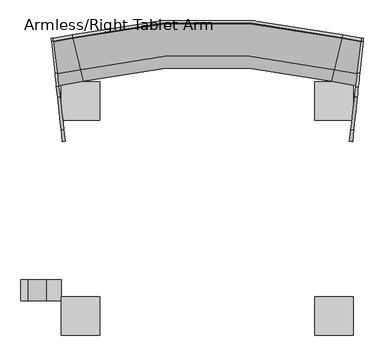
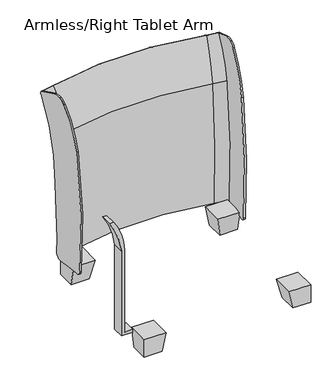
"""IFC4 building model written with IfcOpenShell, lengths in millimetres: furniture geometry, Steelcase Turnstone - Jenny - Seating - Lounge Chair : Armless/Right Tablet Arm."""

from ifc_helpers import new_model, si_unit, point, frame, frame_2d, origin, origin_with_axes, place, context, project, spatial, polyline, circle_curve, ellipse_curve, trimmed, segment, composite_curve, outline, extrude, faceted_brep, source, transform, mapped, element, save
from ifc_brep_helpers import plane_surface, revolved_surface, advanced_brep


def armless_right_tablet_arm_0e31e1d0(model_context):
    return source(origin(), model_context, "Body", "SolidModel", [
        extrude(outline(composite_curve([segment(trimmed(circle_curve(frame_2d((-317.4695755, 631.5743694)), 14.4058816), [point((-317.4695755, 645.9802509))], [point((-317.4695755, 617.1684878))], False, "CARTESIAN"), True, "CONTINUOUS"), segment(trimmed(circle_curve(frame_2d((-317.4695755, 631.5743694)), 14.4058816), [point((-317.4695755, 617.1684878))], [point((-317.4695755, 645.9802509))], False, "CARTESIAN"), True, "CONTINUOUS")], self_intersect=False)), origin_with_axes(), (0.0, 0.0, 1.0), 7.083069),
        extrude(outline(composite_curve([segment(trimmed(circle_curve(frame_2d((318.3480103, 631.2568742)), 14.4535487), [point((318.3480103, 645.7104229))], [point((318.3480103, 616.8033255))], False, "CARTESIAN"), True, "CONTINUOUS"), segment(trimmed(circle_curve(frame_2d((318.3480103, 631.2568742)), 14.4535487), [point((318.3480103, 616.8033255))], [point((318.3480103, 645.7104229))], False, "CARTESIAN"), True, "CONTINUOUS")], self_intersect=False)), origin_with_axes(), (0.0, 0.0, 1.0), 7.083069),
        faceted_brep([(279.1777267, 593.0641473, 7.083069), (279.1777267, 669.2641473, 7.083069), (355.3777267, 669.2641473, 7.083069), (355.3777267, 593.0641473, 7.083069), (261.9561035, 575.8429601, 95.4116322), (355.3777267, 575.8429601, 95.4116322), (355.3777267, 669.2641473, 95.4116322), (261.9561035, 669.2641473, 95.4116322)], [[[0, 1, 2, 3]], [[4, 5, 6, 7]], [[4, 7, 1, 0]], [[7, 6, 2, 1]], [[6, 5, 3, 2]], [[5, 4, 0, 3]]]),
        faceted_brep([(-279.1777267, 593.0641473, 7.083069), (-355.3777267, 593.0641473, 7.083069), (-355.3777267, 669.2641473, 7.083069), (-279.1777267, 669.2641473, 7.083069), (-261.9561035, 575.8429601, 95.4116322), (-261.9561035, 669.2641473, 95.4116322), (-355.3777267, 669.2641473, 95.4116322), (-355.3777267, 575.8429601, 95.4116322)], [[[0, 1, 2, 3]], [[4, 5, 6, 7]], [[4, 7, 1, 0]], [[7, 6, 2, 1]], [[6, 5, 3, 2]], [[5, 4, 0, 3]]]),
        extrude(outline(composite_curve([segment(trimmed(circle_curve(frame_2d((-317.4695755, 90.6150358)), 14.4058816), [point((-317.4695755, 76.2091543))], [point((-317.4695755, 105.0209174))], False, "CARTESIAN"), True, "CONTINUOUS"), segment(trimmed(circle_curve(frame_2d((-317.4695755, 90.6150358)), 14.4058816), [point((-317.4695755, 105.0209174))], [point((-317.4695755, 76.2091543))], False, "CARTESIAN"), True, "CONTINUOUS")], self_intersect=False)), origin_with_axes(), (0.0, 0.0, 1.0), 7.083069),
        extrude(outline(composite_curve([segment(trimmed(circle_curve(frame_2d((318.3480103, 90.932531)), 14.4535487), [point((318.3480103, 76.4789822))], [point((318.3480103, 105.3860797))], False, "CARTESIAN"), True, "CONTINUOUS"), segment(trimmed(circle_curve(frame_2d((318.3480103, 90.932531)), 14.4535487), [point((318.3480103, 105.3860797))], [point((318.3480103, 76.4789822))], False, "CARTESIAN"), True, "CONTINUOUS")], self_intersect=False)), origin_with_axes(), (0.0, 0.0, 1.0), 7.083069),
        faceted_brep([(279.1777267, 129.1252579, 7.083069), (355.3777267, 129.1252579, 7.083069), (355.3777267, 52.9252579, 7.083069), (279.1777267, 52.9252579, 7.083069), (261.9561035, 146.3464451, 85.2737648), (261.9561035, 52.9252579, 85.2737648), (355.3777267, 52.9252579, 85.2737648), (355.3777267, 146.3464451, 85.2737648)], [[[0, 1, 2, 3]], [[4, 5, 6, 7]], [[4, 7, 1, 0]], [[7, 6, 2, 1]], [[6, 5, 3, 2]], [[5, 4, 0, 3]]]),
        faceted_brep([(-279.1777267, 129.1252579, 7.083069), (-279.1777267, 52.9252579, 7.083069), (-355.3777267, 52.9252579, 7.083069), (-355.3777267, 129.1252579, 7.083069), (-261.9561035, 146.3464451, 85.2737648), (-355.3777267, 146.3464451, 85.2737648), (-355.3777267, 52.9252579, 85.2737648), (-261.9561035, 52.9252579, 85.2737648)], [[[0, 1, 2, 3]], [[4, 5, 6, 7]], [[4, 7, 1, 0]], [[7, 6, 2, 1]], [[6, 5, 3, 2]], [[5, 4, 0, 3]]]),
        extrude(outline(composite_curve([segment(polyline([(451.6044174, -404.1583068), (69.2210428, -404.1583068), (69.2210428, -355.6), (81.9210443, -355.6), (81.9210443, -391.4585006), (452.3250069, -391.4585006)]), True, "CONTINUOUS"), segment(trimmed(circle_curve(frame_2d((452.3250069, -629.4150539)), 237.9565533), [point((452.3250069, -391.4585006))], [point((592.311266, -436.9906051))], False, "CARTESIAN"), True, "CONTINUOUS"), segment(polyline([(592.311266, -436.9906051), (592.311266, -454.4030746)]), True, "CONTINUOUS"), segment(trimmed(circle_curve(frame_2d((419.0031767, -717.5978054)), 315.1303859), [point((592.311266, -454.4030746))], [point((451.6044174, -404.1583068))], True, "CARTESIAN"), True, "CONTINUOUS")], self_intersect=False)), frame((0.0, 136.9954231, 0.0), z_axis=(0.0, 1.0, 0.0), x_axis=(0.0, 0.0, 1.0)), (0.0, 0.0, 1.0), 50.8000242),
        advanced_brep(
        [(-365.0328558, 688.9118721, 614.3798536), (-374.2086501, 766.5758751, 782.0850534), (-374.4577532, 768.6842856, 781.0193185), (-375.0846857, 773.9906478, 763.3929272), (-364.7240839, 686.2984239, 412.1857232), (-363.5844919, 676.6529077, 226.5942002), (-363.549176, 676.3539931, 111.3923483), (-362.6401057, 668.6596146, 90.0869227), (-327.0674538, 775.0009474, 782.0850534), (-308.774252, 698.9664071, 614.3798536), (-327.5640748, 777.0651215, 781.0193185), (-328.8139506, 782.2601513, 763.3929272), (-308.1586729, 696.4077914, 412.1857232), (-305.8867403, 686.964647, 226.5942002), (-305.8163331, 686.6720039, 111.3923483), (-304.0039772, 679.1390607, 90.0869227), (327.0674538, 775.0009474, 782.0850534), (308.774252, 698.9664071, 614.3798536), (327.5640748, 777.0651215, 781.0193185), (328.8139506, 782.2601513, 763.3929272), (308.1586729, 696.4077914, 412.1857232), (305.8867403, 686.964647, 226.5942002), (305.8163331, 686.6720039, 111.3923483), (304.0039772, 679.1390607, 90.0869227), (365.0328558, 688.9118721, 614.3798536), (362.6401057, 668.6596146, 90.0869227), (363.549176, 676.3539931, 111.3923483), (363.5844919, 676.6529077, 226.5942002), (364.7240839, 686.2984239, 412.1857232), (375.0846857, 773.9906478, 763.3929272), (374.4577532, 768.6842856, 781.0193185), (374.2086501, 766.5758751, 782.0850534)],
        [
            (0, 1, circle_curve(frame((-406.9820142, 1043.9699138, 549.7445151), z_axis=(-0.9930928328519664, -0.11733126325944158, 0.0), x_axis=(-0.11733126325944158, 0.9930928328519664, 0.0)), 363.3230957)),
            (1, 2),
            (2, 3, circle_curve(frame((-373.7892515, 763.0260816, 769.6690835), z_axis=(-0.9930928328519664, -0.11733126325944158, 0.0), x_axis=(-0.11733126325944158, 0.9930928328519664, 0.0)), 12.7)),
            (3, 4, circle_curve(frame((-444.1840732, 1358.8484643, 428.618251), z_axis=(0.9930928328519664, 0.11733126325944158, 0.0), x_axis=(-0.11733126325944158, 0.9930928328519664, 0.0)), 677.4270991)),
            (4, 5, circle_curve(frame((-222.1914301, -520.0991972, 382.7096079), z_axis=(-0.9930928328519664, -0.11733126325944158, 0.0), x_axis=(-0.11733126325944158, 0.9930928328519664, 0.0)), 1215.145925)),
            (5, 6, circle_curve(frame((-416.8275775, 1127.3028473, 167.8072561), z_axis=(0.9930928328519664, 0.11733126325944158, 0.0), x_axis=(-0.11733126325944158, 0.9930928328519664, 0.0)), 457.5763313)),
            (6, 7, circle_curve(frame((-360.6485798, 651.8033223, 108.3209937), z_axis=(-0.9930928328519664, -0.11733126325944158, 0.0), x_axis=(-0.11733126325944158, 0.9930928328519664, 0.0)), 24.9114856)),
            (7, 0, circle_curve(frame((-582.1375659, 2526.4880272, 279.8645269), z_axis=(-0.9930928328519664, -0.11733126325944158, 0.0), x_axis=(-0.11733126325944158, 0.9930928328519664, 0.0)), 1880.3513194)),
            (8, 1, circle_curve(frame((-421.6517332, 1168.1345426, 782.0850534), z_axis=(0.0, 0.0, -1.0), x_axis=(0.1173312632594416, -0.9930928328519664, 0.0)), 404.3515915)),
            (0, 9, circle_curve(frame((-421.6517332, 1168.1345426, 614.3798536), z_axis=(0.0, 0.0, 1.0), x_axis=(0.1173312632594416, -0.9930928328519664, 0.0)), 482.5557637)),
            (9, 8, circle_curve(frame((-392.4056407, 1046.5750026, 549.7445151), z_axis=(-0.9722568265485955, -0.2339159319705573, 0.0), x_axis=(-0.2339159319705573, 0.9722568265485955, 0.0)), 363.3230957)),
            (10, 2, circle_curve(frame((-421.6517332, 1168.1345426, 781.0193185), z_axis=(0.0, 0.0, -1.0), x_axis=(0.1173312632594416, -0.9930928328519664, 0.0)), 402.2285166)),
            (8, 10),
            (11, 3, circle_curve(frame((-421.6517332, 1168.1345426, 763.3929272), z_axis=(0.0, 0.0, -1.0), x_axis=(0.1173312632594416, -0.9930928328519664, 0.0)), 396.8852475)),
            (10, 11, circle_curve(frame((-326.2313253, 771.5256318, 769.6690835), z_axis=(-0.9722568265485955, -0.23391593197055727, 0.0), x_axis=(-0.23391593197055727, 0.9722568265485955, 0.0)), 12.7)),
            (12, 4, circle_curve(frame((-421.6517332, 1168.1345426, 412.1857232), z_axis=(0.0, 0.0, -1.0), x_axis=(0.1173312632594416, -0.9930928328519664, 0.0)), 485.187389)),
            (11, 12, circle_curve(frame((-466.5730368, 1354.8471098, 428.618251), z_axis=(0.9722568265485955, 0.23391593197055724, 0.0), x_axis=(-0.23391593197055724, 0.9722568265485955, 0.0)), 677.4270991)),
            (13, 5, circle_curve(frame((-421.6517332, 1168.1345426, 226.5942002), z_axis=(0.0, 0.0, -1.0), x_axis=(0.1173312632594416, -0.9930928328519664, 0.0)), 494.8999918)),
            (12, 13, circle_curve(frame((-24.0003198, -484.6784917, 382.7096079), z_axis=(-0.9722568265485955, -0.23391593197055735, 0.0), x_axis=(-0.23391593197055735, 0.9722568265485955, 0.0)), 1215.145925)),
            (14, 6, circle_curve(frame((-421.6517332, 1168.1345426, 111.3923483), z_axis=(0.0, 0.0, -1.0), x_axis=(0.1173312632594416, -0.9930928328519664, 0.0)), 495.2009855)),
            (13, 14, circle_curve(frame((-412.0341186, 1128.159534, 167.8072561), z_axis=(0.9722568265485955, 0.23391593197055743, 0.0), x_axis=(-0.23391593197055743, 0.9722568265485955, 0.0)), 457.5763313)),
            (15, 7, circle_curve(frame((-421.6517332, 1168.1345426, 90.0869227), z_axis=(0.0, 0.0, -1.0), x_axis=(0.1173312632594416, -0.9930928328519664, 0.0)), 502.9488799)),
            (14, 15, circle_curve(frame((-300.0335978, 662.6364289, 108.3209937), z_axis=(-0.9722568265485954, -0.2339159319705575, 0.0), x_axis=(-0.2339159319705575, 0.9722568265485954, 0.0)), 24.9114856)),
            (15, 9, circle_curve(frame((-741.6022058, 2497.9885145, 279.8645269), z_axis=(-0.9722568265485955, -0.23391593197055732, 0.0), x_axis=(-0.23391593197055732, 0.9722568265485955, 0.0)), 1880.3513194)),
            (16, 8, circle_curve(frame((0.0, -584.4343079, 782.0850534), z_axis=(0.0, 0.0, 1.0), x_axis=(-0.23391593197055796, 0.9722568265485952, 0.0)), 1398.2264955)),
            (9, 17, circle_curve(frame((0.0, -584.4343079, 614.3798536), z_axis=(0.0, 0.0, -1.0), x_axis=(-0.23391593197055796, 0.9722568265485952, 0.0)), 1320.0223232)),
            (17, 16, circle_curve(frame((392.4056407, 1046.5750026, 549.7445151), z_axis=(-0.972256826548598, 0.23391593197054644, 0.0), x_axis=(0.23391593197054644, 0.972256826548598, 0.0)), 363.3230957)),
            (18, 10, circle_curve(frame((0.0, -584.4343079, 781.0193185), z_axis=(0.0, 0.0, 1.0), x_axis=(-0.23391593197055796, 0.9722568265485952, 0.0)), 1400.3495704)),
            (16, 18),
            (19, 11, circle_curve(frame((0.0, -584.4343079, 763.3929272), z_axis=(0.0, 0.0, 1.0), x_axis=(-0.23391593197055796, 0.9722568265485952, 0.0)), 1405.6928394)),
            (18, 19, circle_curve(frame((326.2313253, 771.5256318, 769.6690835), z_axis=(-0.9722568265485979, 0.233915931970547, 0.0), x_axis=(0.233915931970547, 0.9722568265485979, 0.0)), 12.7)),
            (20, 12, circle_curve(frame((0.0, -584.4343079, 412.1857232), z_axis=(0.0, 0.0, 1.0), x_axis=(-0.23391593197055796, 0.9722568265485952, 0.0)), 1317.3906979)),
            (19, 20, circle_curve(frame((466.5730368, 1354.8471098, 428.618251), z_axis=(0.9722568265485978, -0.2339159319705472, 0.0), x_axis=(0.2339159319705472, 0.9722568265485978, 0.0)), 677.4270991)),
            (21, 13, circle_curve(frame((0.0, -584.4343079, 226.5942002), z_axis=(0.0, 0.0, 1.0), x_axis=(-0.23391593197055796, 0.9722568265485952, 0.0)), 1307.6780951)),
            (20, 21, circle_curve(frame((24.0003198, -484.6784917, 382.7096079), z_axis=(-0.972256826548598, 0.2339159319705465, 0.0), x_axis=(0.2339159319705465, 0.972256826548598, 0.0)), 1215.145925)),
            (22, 14, circle_curve(frame((0.0, -584.4343079, 111.3923483), z_axis=(0.0, 0.0, 1.0), x_axis=(-0.23391593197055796, 0.9722568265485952, 0.0)), 1307.3771015)),
            (21, 22, circle_curve(frame((412.0341186, 1128.159534, 167.8072561), z_axis=(0.972256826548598, -0.2339159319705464, 0.0), x_axis=(0.2339159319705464, 0.972256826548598, 0.0)), 457.5763313)),
            (23, 15, circle_curve(frame((0.0, -584.4343079, 90.0869227), z_axis=(0.0, 0.0, 1.0), x_axis=(-0.23391593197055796, 0.9722568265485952, 0.0)), 1299.629207)),
            (22, 23, circle_curve(frame((300.0335978, 662.6364289, 108.3209937), z_axis=(-0.972256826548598, 0.2339159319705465, 0.0), x_axis=(0.2339159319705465, 0.972256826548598, 0.0)), 24.9114856)),
            (23, 17, circle_curve(frame((741.6022058, 2497.9885145, 279.8645269), z_axis=(-0.9722568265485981, 0.23391593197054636, 0.0), x_axis=(0.23391593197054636, 0.9722568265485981, 0.0)), 1880.3513194)),
            (24, 25, circle_curve(frame((582.1375659, 2526.4880272, 279.8645269), z_axis=(0.9930928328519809, -0.11733126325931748, 0.0), x_axis=(0.11733126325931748, 0.9930928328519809, 0.0)), 1880.3513194)),
            (25, 26, circle_curve(frame((360.6485798, 651.8033223, 108.3209937), z_axis=(0.9930928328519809, -0.11733126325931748, 0.0), x_axis=(0.11733126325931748, 0.9930928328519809, 0.0)), 24.9114856)),
            (26, 27, circle_curve(frame((416.8275775, 1127.3028473, 167.8072561), z_axis=(-0.9930928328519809, 0.11733126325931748, 0.0), x_axis=(0.11733126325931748, 0.9930928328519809, 0.0)), 457.5763313)),
            (27, 28, circle_curve(frame((222.1914301, -520.0991972, 382.7096079), z_axis=(0.9930928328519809, -0.11733126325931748, 0.0), x_axis=(0.11733126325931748, 0.9930928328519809, 0.0)), 1215.145925)),
            (28, 29, circle_curve(frame((444.1840732, 1358.8484643, 428.618251), z_axis=(-0.9930928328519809, 0.11733126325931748, 0.0), x_axis=(0.11733126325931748, 0.9930928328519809, 0.0)), 677.4270991)),
            (29, 30, circle_curve(frame((373.7892515, 763.0260816, 769.6690835), z_axis=(0.9930928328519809, -0.11733126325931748, 0.0), x_axis=(0.11733126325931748, 0.9930928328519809, 0.0)), 12.7)),
            (30, 31),
            (31, 24, circle_curve(frame((406.9820142, 1043.9699138, 549.7445151), z_axis=(0.9930928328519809, -0.11733126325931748, 0.0), x_axis=(0.11733126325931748, 0.9930928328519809, 0.0)), 363.3230957)),
            (31, 16, circle_curve(frame((421.6517332, 1168.1345426, 782.0850534), z_axis=(0.0, 0.0, -1.0), x_axis=(-0.2339159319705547, -0.972256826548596, 0.0)), 404.3515915)),
            (17, 24, circle_curve(frame((421.6517332, 1168.1345426, 614.3798536), z_axis=(0.0, 0.0, 1.0), x_axis=(-0.2339159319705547, -0.972256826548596, 0.0)), 482.5557637)),
            (30, 18, circle_curve(frame((421.6517332, 1168.1345426, 781.0193185), z_axis=(0.0, 0.0, -1.0), x_axis=(-0.2339159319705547, -0.972256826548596, 0.0)), 402.2285166)),
            (29, 19, circle_curve(frame((421.6517332, 1168.1345426, 763.3929272), z_axis=(0.0, 0.0, -1.0), x_axis=(-0.2339159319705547, -0.972256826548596, 0.0)), 396.8852475)),
            (28, 20, circle_curve(frame((421.6517332, 1168.1345426, 412.1857232), z_axis=(0.0, 0.0, -1.0), x_axis=(-0.2339159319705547, -0.972256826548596, 0.0)), 485.187389)),
            (27, 21, circle_curve(frame((421.6517332, 1168.1345426, 226.5942002), z_axis=(0.0, 0.0, -1.0), x_axis=(-0.2339159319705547, -0.972256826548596, 0.0)), 494.8999918)),
            (26, 22, circle_curve(frame((421.6517332, 1168.1345426, 111.3923483), z_axis=(0.0, 0.0, -1.0), x_axis=(-0.2339159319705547, -0.972256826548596, 0.0)), 495.2009855)),
            (25, 23, circle_curve(frame((421.6517332, 1168.1345426, 90.0869227), z_axis=(0.0, 0.0, -1.0), x_axis=(-0.2339159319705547, -0.972256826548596, 0.0)), 502.9488799)),
        ],
        [
            plane_surface(frame((-355.6, 609.0720985, 0.0), z_axis=(-0.9930928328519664, -0.1173312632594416, 0.0), x_axis=(0.0, 0.0, 1.0))),
            revolved_surface(trimmed(ellipse_curve(frame((-406.9820142, 1043.9699138, 549.7445151), z_axis=(-0.9930928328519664, -0.11733126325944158, 0.0), x_axis=(-0.11733126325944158, 0.9930928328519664, 0.0)), 363.3230957, 363.3230957), [point((-365.0328558, 688.9118721, 614.3798536))], [point((-374.2086501, 766.5758751, 782.0850534))], True, "CARTESIAN"), (-421.6517332, 1168.1345426, 0.0), (0.0, 0.0, 1.0)),
            revolved_surface(polyline([(-374.2086501, 766.5758751, 782.0850534), (-374.4577532, 768.6842856, 781.0193185)]), (-421.6517332, 1168.1345426, 0.0), (0.0, 0.0, 1.0)),
            revolved_surface(trimmed(ellipse_curve(frame((-373.7892515, 763.0260816, 769.6690835), z_axis=(-0.9930928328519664, -0.11733126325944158, 0.0), x_axis=(-0.11733126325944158, 0.9930928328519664, 0.0)), 12.7, 12.7), [point((-374.4577532, 768.6842856, 781.0193185))], [point((-375.0846857, 773.9906478, 763.3929272))], True, "CARTESIAN"), (-421.6517332, 1168.1345426, 0.0), (0.0, 0.0, 1.0)),
            revolved_surface(trimmed(ellipse_curve(frame((-444.1840732, 1358.8484643, 428.618251), z_axis=(0.9930928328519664, 0.11733126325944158, 0.0), x_axis=(-0.11733126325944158, 0.9930928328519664, 0.0)), 677.4270991, 677.4270991), [point((-375.0846857, 773.9906478, 763.3929272))], [point((-364.7240839, 686.2984239, 412.1857232))], True, "CARTESIAN"), (-421.6517332, 1168.1345426, 0.0), (0.0, 0.0, 1.0)),
            revolved_surface(trimmed(ellipse_curve(frame((-222.1914301, -520.0991972, 382.7096079), z_axis=(-0.9930928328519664, -0.11733126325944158, 0.0), x_axis=(-0.11733126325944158, 0.9930928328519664, 0.0)), 1215.145925, 1215.145925), [point((-364.7240839, 686.2984239, 412.1857232))], [point((-363.5844919, 676.6529077, 226.5942002))], True, "CARTESIAN"), (-421.6517332, 1168.1345426, 0.0), (0.0, 0.0, 1.0)),
            revolved_surface(trimmed(ellipse_curve(frame((-416.8275775, 1127.3028473, 167.8072561), z_axis=(0.9930928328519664, 0.11733126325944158, 0.0), x_axis=(-0.11733126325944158, 0.9930928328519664, 0.0)), 457.5763313, 457.5763313), [point((-363.5844919, 676.6529077, 226.5942002))], [point((-363.549176, 676.3539931, 111.3923483))], True, "CARTESIAN"), (-421.6517332, 1168.1345426, 0.0), (0.0, 0.0, 1.0)),
            revolved_surface(trimmed(ellipse_curve(frame((-360.6485798, 651.8033223, 108.3209937), z_axis=(-0.9930928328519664, -0.11733126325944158, 0.0), x_axis=(-0.11733126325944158, 0.9930928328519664, 0.0)), 24.9114856, 24.9114856), [point((-363.549176, 676.3539931, 111.3923483))], [point((-362.6401057, 668.6596146, 90.0869227))], True, "CARTESIAN"), (-421.6517332, 1168.1345426, 0.0), (0.0, 0.0, 1.0)),
            revolved_surface(trimmed(ellipse_curve(frame((-582.1375659, 2526.4880272, 279.8645269), z_axis=(-0.9930928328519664, -0.11733126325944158, 0.0), x_axis=(-0.11733126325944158, 0.9930928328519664, 0.0)), 1880.3513194, 1880.3513194), [point((-362.6401057, 668.6596146, 90.0869227))], [point((-365.0328558, 688.9118721, 614.3798536))], True, "CARTESIAN"), (-421.6517332, 1168.1345426, 0.0), (0.0, 0.0, 1.0)),
            revolved_surface(trimmed(ellipse_curve(frame((-392.4056407, 1046.5750026, 549.7445151), z_axis=(-0.9722568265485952, -0.23391593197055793, 0.0), x_axis=(-0.23391593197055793, 0.9722568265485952, 0.0)), 363.3230957, 363.3230957), [point((-308.774252, 698.9664071, 614.3798536))], [point((-327.0674538, 775.0009474, 782.0850534))], True, "CARTESIAN"), (0.0, -584.4343079, 0.0), (0.0, 0.0, -1.0)),
            revolved_surface(polyline([(-327.0674538, 775.0009474, 782.0850534), (-327.5640748, 777.0651215, 781.0193185)]), (0.0, -584.4343079, 0.0), (0.0, 0.0, -1.0)),
            revolved_surface(trimmed(ellipse_curve(frame((-326.2313253, 771.5256318, 769.6690835), z_axis=(-0.9722568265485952, -0.23391593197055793, 0.0), x_axis=(-0.23391593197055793, 0.9722568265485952, 0.0)), 12.7, 12.7), [point((-327.5640748, 777.0651215, 781.0193185))], [point((-328.8139506, 782.2601513, 763.3929272))], True, "CARTESIAN"), (0.0, -584.4343079, 0.0), (0.0, 0.0, -1.0)),
            revolved_surface(trimmed(ellipse_curve(frame((-466.5730368, 1354.8471098, 428.618251), z_axis=(0.9722568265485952, 0.23391593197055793, 0.0), x_axis=(-0.23391593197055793, 0.9722568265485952, 0.0)), 677.4270991, 677.4270991), [point((-328.8139506, 782.2601513, 763.3929272))], [point((-308.1586729, 696.4077914, 412.1857232))], True, "CARTESIAN"), (0.0, -584.4343079, 0.0), (0.0, 0.0, -1.0)),
            revolved_surface(trimmed(ellipse_curve(frame((-24.0003198, -484.6784917, 382.7096079), z_axis=(-0.9722568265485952, -0.23391593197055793, 0.0), x_axis=(-0.23391593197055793, 0.9722568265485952, 0.0)), 1215.145925, 1215.145925), [point((-308.1586729, 696.4077914, 412.1857232))], [point((-305.8867403, 686.964647, 226.5942002))], True, "CARTESIAN"), (0.0, -584.4343079, 0.0), (0.0, 0.0, -1.0)),
            revolved_surface(trimmed(ellipse_curve(frame((-412.0341186, 1128.159534, 167.8072561), z_axis=(0.9722568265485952, 0.23391593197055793, 0.0), x_axis=(-0.23391593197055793, 0.9722568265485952, 0.0)), 457.5763313, 457.5763313), [point((-305.8867403, 686.964647, 226.5942002))], [point((-305.8163331, 686.6720039, 111.3923483))], True, "CARTESIAN"), (0.0, -584.4343079, 0.0), (0.0, 0.0, -1.0)),
            revolved_surface(trimmed(ellipse_curve(frame((-300.0335978, 662.6364289, 108.3209937), z_axis=(-0.9722568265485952, -0.23391593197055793, 0.0), x_axis=(-0.23391593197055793, 0.9722568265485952, 0.0)), 24.9114856, 24.9114856), [point((-305.8163331, 686.6720039, 111.3923483))], [point((-304.0039772, 679.1390607, 90.0869227))], True, "CARTESIAN"), (0.0, -584.4343079, 0.0), (0.0, 0.0, -1.0)),
            revolved_surface(trimmed(ellipse_curve(frame((-741.6022058, 2497.9885145, 279.8645269), z_axis=(-0.9722568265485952, -0.23391593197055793, 0.0), x_axis=(-0.23391593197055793, 0.9722568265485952, 0.0)), 1880.3513194, 1880.3513194), [point((-304.0039772, 679.1390607, 90.0869227))], [point((-308.774252, 698.9664071, 614.3798536))], True, "CARTESIAN"), (0.0, -584.4343079, 0.0), (0.0, 0.0, -1.0)),
            plane_surface(frame((355.6, 609.0720985, 0.0), z_axis=(0.993092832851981, -0.11733126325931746, 0.0), x_axis=(0.0, 0.0, 1.0))),
            revolved_surface(trimmed(ellipse_curve(frame((392.4056407, 1046.5750026, 549.7445151), z_axis=(-0.972256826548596, 0.2339159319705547, 0.0), x_axis=(0.2339159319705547, 0.972256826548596, 0.0)), 363.3230957, 363.3230957), [point((308.774252, 698.9664071, 614.3798536))], [point((327.0674538, 775.0009474, 782.0850534))], True, "CARTESIAN"), (421.6517332, 1168.1345426, 0.0), (0.0, 0.0, 1.0)),
            revolved_surface(polyline([(327.0674538, 775.0009474, 782.0850534), (327.5640748, 777.0651215, 781.0193185)]), (421.6517332, 1168.1345426, 0.0), (0.0, 0.0, 1.0)),
            revolved_surface(trimmed(ellipse_curve(frame((326.2313253, 771.5256318, 769.6690835), z_axis=(-0.972256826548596, 0.2339159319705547, 0.0), x_axis=(0.2339159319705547, 0.972256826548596, 0.0)), 12.7, 12.7), [point((327.5640748, 777.0651215, 781.0193185))], [point((328.8139506, 782.2601513, 763.3929272))], True, "CARTESIAN"), (421.6517332, 1168.1345426, 0.0), (0.0, 0.0, 1.0)),
            revolved_surface(trimmed(ellipse_curve(frame((466.5730368, 1354.8471098, 428.618251), z_axis=(0.972256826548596, -0.2339159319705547, 0.0), x_axis=(0.2339159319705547, 0.972256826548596, 0.0)), 677.4270991, 677.4270991), [point((328.8139506, 782.2601513, 763.3929272))], [point((308.1586729, 696.4077914, 412.1857232))], True, "CARTESIAN"), (421.6517332, 1168.1345426, 0.0), (0.0, 0.0, 1.0)),
            revolved_surface(trimmed(ellipse_curve(frame((24.0003198, -484.6784917, 382.7096079), z_axis=(-0.972256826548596, 0.2339159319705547, 0.0), x_axis=(0.2339159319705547, 0.972256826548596, 0.0)), 1215.145925, 1215.145925), [point((308.1586729, 696.4077914, 412.1857232))], [point((305.8867403, 686.964647, 226.5942002))], True, "CARTESIAN"), (421.6517332, 1168.1345426, 0.0), (0.0, 0.0, 1.0)),
            revolved_surface(trimmed(ellipse_curve(frame((412.0341186, 1128.159534, 167.8072561), z_axis=(0.972256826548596, -0.2339159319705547, 0.0), x_axis=(0.2339159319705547, 0.972256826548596, 0.0)), 457.5763313, 457.5763313), [point((305.8867403, 686.964647, 226.5942002))], [point((305.8163331, 686.6720039, 111.3923483))], True, "CARTESIAN"), (421.6517332, 1168.1345426, 0.0), (0.0, 0.0, 1.0)),
            revolved_surface(trimmed(ellipse_curve(frame((300.0335978, 662.6364289, 108.3209937), z_axis=(-0.972256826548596, 0.2339159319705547, 0.0), x_axis=(0.2339159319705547, 0.972256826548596, 0.0)), 24.9114856, 24.9114856), [point((305.8163331, 686.6720039, 111.3923483))], [point((304.0039772, 679.1390607, 90.0869227))], True, "CARTESIAN"), (421.6517332, 1168.1345426, 0.0), (0.0, 0.0, 1.0)),
            revolved_surface(trimmed(ellipse_curve(frame((741.6022058, 2497.9885145, 279.8645269), z_axis=(-0.972256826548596, 0.2339159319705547, 0.0), x_axis=(0.2339159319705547, 0.972256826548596, 0.0)), 1880.3513194, 1880.3513194), [point((304.0039772, 679.1390607, 90.0869227))], [point((308.774252, 698.9664071, 614.3798536))], True, "CARTESIAN"), (421.6517332, 1168.1345426, 0.0), (0.0, 0.0, 1.0)),
        ],
        [
            (0, [[1, 2, 3, 4, 5, 6, 7, 8]]),
            (1, [[9, -1, 10, 11]]),
            (2, [[12, -2, -9, 13]]),
            (3, [[14, -3, -12, 15]]),
            (4, [[16, -4, -14, 17]]),
            (5, [[18, -5, -16, 19]]),
            (6, [[20, -6, -18, 21]]),
            (7, [[22, -7, -20, 23]]),
            (8, [[-10, -8, -22, 24]]),
            (9, [[25, -11, 26, 27]]),
            (10, [[28, -13, -25, 29]]),
            (11, [[30, -15, -28, 31]]),
            (12, [[32, -17, -30, 33]]),
            (13, [[34, -19, -32, 35]]),
            (14, [[36, -21, -34, 37]]),
            (15, [[38, -23, -36, 39]]),
            (16, [[-26, -24, -38, 40]]),
            (17, [[41, 42, 43, 44, 45, 46, 47, 48]]),
            (18, [[49, -27, 50, -48]]),
            (19, [[51, -29, -49, -47]]),
            (20, [[52, -31, -51, -46]]),
            (21, [[53, -33, -52, -45]]),
            (22, [[54, -35, -53, -44]]),
            (23, [[55, -37, -54, -43]]),
            (24, [[56, -39, -55, -42]]),
            (25, [[-50, -40, -56, -41]]),
        ],
    ),
        advanced_brep(
        [(371.0231422, 690.4168678, 813.9027777), (367.5078894, 657.2478941, 814.4538477), (364.8381433, 632.056893, 797.7221008), (356.4068462, 552.5014564, 627.8736036), (354.3284196, 532.8899867, 97.0710008), (356.3949504, 552.3892108, 81.9987921), (366.5367036, 648.0840483, 83.5957513), (369.4625291, 675.6913448, 111.3923483), (369.4942508, 675.9906622, 226.5942002), (370.5178614, 685.6491753, 412.1857232), (379.8240192, 773.4595598, 763.3929272), (379.2608923, 768.1460475, 781.0193185), (365.286616, 691.0597009, 813.9027777), (374.4577532, 768.6842856, 781.0193185), (375.0846857, 773.9906478, 763.3929272), (364.7240839, 686.2984239, 412.1857232), (363.5844919, 676.6529077, 226.5942002), (363.549176, 676.3539931, 111.3923483), (360.2918368, 648.7838459, 83.5957513), (349.0009614, 553.2177786, 81.9987921), (346.7002803, 533.7447933, 97.0710008), (349.0142051, 553.3298731, 627.8736036), (358.4008193, 632.7782572, 797.7221008), (361.3730638, 657.9353605, 814.4538477)],
        [
            (0, 1, circle_curve(frame((369.1763053, 672.9906155, 762.9432742), z_axis=(0.9944309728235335, -0.10538994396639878, 0.0), x_axis=(-0.10538994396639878, -0.9944309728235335, 0.0)), 53.8883667)),
            (1, 2, circle_curve(frame((369.1763053, 672.9906155, 762.9432742), z_axis=(0.9944309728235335, -0.10538994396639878, 0.0), x_axis=(-0.10538994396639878, -0.9944309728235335, 0.0)), 53.8883667)),
            (2, 3, circle_curve(frame((394.086654, 908.03792, 563.2382651), z_axis=(0.9944309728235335, -0.10538994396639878, 0.0), x_axis=(-0.10538994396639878, -0.9944309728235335, 0.0)), 363.3230957)),
            (3, 4, circle_curve(frame((551.415854, 2392.5536479, 293.3582769), z_axis=(0.9944309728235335, -0.10538994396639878, 0.0), x_axis=(-0.10538994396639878, -0.9944309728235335, 0.0)), 1880.3513194)),
            (4, 5, circle_curve(frame((356.1164347, 549.7612128, 98.8517567), z_axis=(0.9944309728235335, -0.10538994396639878, 0.0), x_axis=(-0.10538994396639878, -0.9944309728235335, 0.0)), 17.0589085)),
            (5, 6, circle_curve(frame((362.0675508, 605.9143321, -261.2499371), z_axis=(-0.9944309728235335, 0.10538994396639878, 0.0), x_axis=(-0.10538994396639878, -0.9944309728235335, 0.0)), 347.443243)),
            (6, 7, circle_curve(frame((366.8571394, 651.1075933, 108.3209937), z_axis=(0.9944309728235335, -0.10538994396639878, 0.0), x_axis=(-0.10538994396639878, -0.9944309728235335, 0.0)), 24.9114856)),
            (7, 8, circle_curve(frame((417.3185531, 1127.2478287, 167.8072561), z_axis=(-0.9944309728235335, 0.10538994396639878, 0.0), x_axis=(-0.10538994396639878, -0.9944309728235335, 0.0)), 457.5763313)),
            (8, 9, circle_curve(frame((242.4913834, -522.3740028, 382.7096079), z_axis=(0.9944309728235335, -0.10538994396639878, 0.0), x_axis=(-0.10538994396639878, -0.9944309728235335, 0.0)), 1215.145925)),
            (9, 10, circle_curve(frame((441.8908577, 1359.1054412, 428.618251), z_axis=(-0.9944309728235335, 0.10538994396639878, 0.0), x_axis=(-0.10538994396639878, -0.9944309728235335, 0.0)), 677.4270991)),
            (10, 11, circle_curve(frame((378.660427, 762.4802194, 769.6690835), z_axis=(0.9944309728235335, -0.10538994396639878, 0.0), x_axis=(-0.10538994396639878, -0.9944309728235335, 0.0)), 12.7)),
            (11, 0, circle_curve(frame((349.3215569, 485.6465852, 215.0940543), z_axis=(0.9944309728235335, -0.10538994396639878, 0.0), x_axis=(-0.10538994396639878, -0.9944309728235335, 0.0)), 633.2248531)),
            (12, 13, circle_curve(frame((341.1261096, 486.5649641, 215.0940543), z_axis=(-0.9930928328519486, 0.11733126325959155, 0.0), x_axis=(-0.11733126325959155, -0.9930928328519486, 0.0)), 633.2248531)),
            (13, 14, circle_curve(frame((373.7892515, 763.0260816, 769.6690835), z_axis=(-0.9930928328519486, 0.11733126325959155, 0.0), x_axis=(-0.11733126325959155, -0.9930928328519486, 0.0)), 12.7)),
            (14, 15, circle_curve(frame((444.1840732, 1358.8484643, 428.618251), z_axis=(0.9930928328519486, -0.11733126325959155, 0.0), x_axis=(-0.11733126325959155, -0.9930928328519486, 0.0)), 677.4270991)),
            (15, 16, circle_curve(frame((222.1914301, -520.0991972, 382.7096079), z_axis=(-0.9930928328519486, 0.11733126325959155, 0.0), x_axis=(-0.11733126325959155, -0.9930928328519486, 0.0)), 1215.145925)),
            (16, 17, circle_curve(frame((416.8275775, 1127.3028473, 167.8072561), z_axis=(0.9930928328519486, -0.11733126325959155, 0.0), x_axis=(-0.11733126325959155, -0.9930928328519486, 0.0)), 457.5763313)),
            (17, 18, circle_curve(frame((360.6485798, 651.8033223, 108.3209937), z_axis=(-0.9930928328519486, 0.11733126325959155, 0.0), x_axis=(-0.11733126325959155, -0.9930928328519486, 0.0)), 24.9114856)),
            (18, 19, circle_curve(frame((355.3163018, 606.6708747, -261.2499371), z_axis=(0.9930928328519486, -0.11733126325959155, 0.0), x_axis=(-0.11733126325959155, -0.9930928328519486, 0.0)), 347.443243)),
            (19, 20, circle_curve(frame((348.6908883, 550.5933169, 98.8517567), z_axis=(-0.9930928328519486, 0.11733126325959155, 0.0), x_axis=(-0.11733126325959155, -0.9930928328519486, 0.0)), 17.0589085)),
            (20, 21, circle_curve(frame((566.1189152, 2390.9060281, 293.3582769), z_axis=(-0.9930928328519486, 0.11733126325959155, 0.0), x_axis=(-0.11733126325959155, -0.9930928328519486, 0.0)), 1880.3513194)),
            (21, 22, circle_curve(frame((390.9633635, 908.3879148, 563.2382651), z_axis=(-0.9930928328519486, 0.11733126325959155, 0.0), x_axis=(-0.11733126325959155, -0.9930928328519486, 0.0)), 363.3230957)),
            (22, 23, circle_curve(frame((363.2305214, 673.6568979, 762.9432742), z_axis=(-0.9930928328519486, 0.11733126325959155, 0.0), x_axis=(-0.11733126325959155, -0.9930928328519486, 0.0)), 53.8883667)),
            (23, 12, circle_curve(frame((363.2305214, 673.6568979, 762.9432742), z_axis=(-0.9930928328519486, 0.11733126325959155, 0.0), x_axis=(-0.11733126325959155, -0.9930928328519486, 0.0)), 53.8883667)),
            (23, 1, circle_curve(frame((421.6517332, 1168.1345426, 814.4538477), z_axis=(0.0, 0.0, 1.0), x_axis=(-0.10538994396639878, -0.9944309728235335, 0.0)), 513.7477235)),
            (0, 12, circle_curve(frame((421.6517332, 1168.1345426, 813.9027777), z_axis=(0.0, 0.0, -1.0), x_axis=(-0.10538994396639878, -0.9944309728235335, 0.0)), 480.3929964)),
            (22, 2, circle_curve(frame((421.6517332, 1168.1345426, 797.7221008), z_axis=(0.0, 0.0, 1.0), x_axis=(-0.10538994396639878, -0.9944309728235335, 0.0)), 539.0797997)),
            (21, 3, circle_curve(frame((421.6517332, 1168.1345426, 627.8736036), z_axis=(0.0, 0.0, 1.0), x_axis=(-0.10538994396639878, -0.9944309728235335, 0.0)), 619.0807637)),
            (20, 4, circle_curve(frame((421.6517332, 1168.1345426, 97.0710008), z_axis=(0.0, 0.0, 1.0), x_axis=(-0.10538994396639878, -0.9944309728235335, 0.0)), 638.8020619)),
            (19, 5, circle_curve(frame((421.6517332, 1168.1345426, 81.9987921), z_axis=(0.0, 0.0, 1.0), x_axis=(-0.10538994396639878, -0.9944309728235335, 0.0)), 619.193638)),
            (18, 6, circle_curve(frame((421.6517332, 1168.1345426, 83.5957513), z_axis=(0.0, 0.0, 1.0), x_axis=(-0.10538994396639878, -0.9944309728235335, 0.0)), 522.9628888)),
            (17, 7, circle_curve(frame((421.6517332, 1168.1345426, 111.3923483), z_axis=(0.0, 0.0, 1.0), x_axis=(-0.10538994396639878, -0.9944309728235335, 0.0)), 495.2009855)),
            (16, 8, circle_curve(frame((421.6517332, 1168.1345426, 226.5942002), z_axis=(0.0, 0.0, 1.0), x_axis=(-0.10538994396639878, -0.9944309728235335, 0.0)), 494.8999918)),
            (15, 9, circle_curve(frame((421.6517332, 1168.1345426, 412.1857232), z_axis=(0.0, 0.0, 1.0), x_axis=(-0.10538994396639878, -0.9944309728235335, 0.0)), 485.187389)),
            (14, 10, circle_curve(frame((421.6517332, 1168.1345426, 763.3929272), z_axis=(0.0, 0.0, 1.0), x_axis=(-0.10538994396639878, -0.9944309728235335, 0.0)), 396.8852475)),
            (13, 11, circle_curve(frame((421.6517332, 1168.1345426, 781.0193185), z_axis=(0.0, 0.0, 1.0), x_axis=(-0.10538994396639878, -0.9944309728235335, 0.0)), 402.2285166)),
        ],
        [
            plane_surface(frame((362.3223757, 608.3187915, 0.0), z_axis=(0.9944309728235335, -0.10538994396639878, 0.0), x_axis=(0.0, 0.0, 1.0))),
            plane_surface(frame((355.6, 609.0720985, 0.0), z_axis=(-0.9930928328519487, 0.11733126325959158, 0.0), x_axis=(0.0, 0.0, 1.0))),
            revolved_surface(trimmed(ellipse_curve(frame((369.1763053, 672.9906155, 762.9432742), z_axis=(0.9944309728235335, -0.10538994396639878, 0.0), x_axis=(-0.10538994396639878, -0.9944309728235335, 0.0)), 53.8883667, 53.8883667), [point((371.0231422, 690.4168678, 813.9027777))], [point((367.5078894, 657.2478941, 814.4538477))], True, "CARTESIAN"), (421.6517332, 1168.1345426, 0.0), (0.0, 0.0, -1.0)),
            revolved_surface(trimmed(ellipse_curve(frame((369.1763053, 672.9906155, 762.9432742), z_axis=(0.9944309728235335, -0.10538994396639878, 0.0), x_axis=(-0.10538994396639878, -0.9944309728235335, 0.0)), 53.8883667, 53.8883667), [point((367.5078894, 657.2478941, 814.4538477))], [point((364.8381433, 632.056893, 797.7221008))], True, "CARTESIAN"), (421.6517332, 1168.1345426, 0.0), (0.0, 0.0, -1.0)),
            revolved_surface(trimmed(ellipse_curve(frame((394.086654, 908.03792, 563.2382651), z_axis=(0.9944309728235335, -0.10538994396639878, 0.0), x_axis=(-0.10538994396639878, -0.9944309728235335, 0.0)), 363.3230957, 363.3230957), [point((364.8381433, 632.056893, 797.7221008))], [point((356.4068462, 552.5014564, 627.8736036))], True, "CARTESIAN"), (421.6517332, 1168.1345426, 0.0), (0.0, 0.0, -1.0)),
            revolved_surface(trimmed(ellipse_curve(frame((551.415854, 2392.5536479, 293.3582769), z_axis=(0.9944309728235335, -0.10538994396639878, 0.0), x_axis=(-0.10538994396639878, -0.9944309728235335, 0.0)), 1880.3513194, 1880.3513194), [point((356.4068462, 552.5014564, 627.8736036))], [point((354.3284196, 532.8899867, 97.0710008))], True, "CARTESIAN"), (421.6517332, 1168.1345426, 0.0), (0.0, 0.0, -1.0)),
            revolved_surface(trimmed(ellipse_curve(frame((356.1164347, 549.7612128, 98.8517567), z_axis=(0.9944309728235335, -0.10538994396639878, 0.0), x_axis=(-0.10538994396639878, -0.9944309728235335, 0.0)), 17.0589085, 17.0589085), [point((354.3284196, 532.8899867, 97.0710008))], [point((356.3949504, 552.3892108, 81.9987921))], True, "CARTESIAN"), (421.6517332, 1168.1345426, 0.0), (0.0, 0.0, -1.0)),
            revolved_surface(trimmed(ellipse_curve(frame((362.0675508, 605.9143321, -261.2499371), z_axis=(-0.9944309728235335, 0.10538994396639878, 0.0), x_axis=(-0.10538994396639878, -0.9944309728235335, 0.0)), 347.443243, 347.443243), [point((356.3949504, 552.3892108, 81.9987921))], [point((366.5367036, 648.0840483, 83.5957513))], True, "CARTESIAN"), (421.6517332, 1168.1345426, 0.0), (0.0, 0.0, -1.0)),
            revolved_surface(trimmed(ellipse_curve(frame((366.8571394, 651.1075933, 108.3209937), z_axis=(0.9944309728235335, -0.10538994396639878, 0.0), x_axis=(-0.10538994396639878, -0.9944309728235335, 0.0)), 24.9114856, 24.9114856), [point((366.5367036, 648.0840483, 83.5957513))], [point((369.4625291, 675.6913448, 111.3923483))], True, "CARTESIAN"), (421.6517332, 1168.1345426, 0.0), (0.0, 0.0, -1.0)),
            revolved_surface(trimmed(ellipse_curve(frame((417.3185531, 1127.2478287, 167.8072561), z_axis=(-0.9944309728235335, 0.10538994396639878, 0.0), x_axis=(-0.10538994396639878, -0.9944309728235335, 0.0)), 457.5763313, 457.5763313), [point((369.4625291, 675.6913448, 111.3923483))], [point((369.4942508, 675.9906622, 226.5942002))], True, "CARTESIAN"), (421.6517332, 1168.1345426, 0.0), (0.0, 0.0, -1.0)),
            revolved_surface(trimmed(ellipse_curve(frame((242.4913834, -522.3740028, 382.7096079), z_axis=(0.9944309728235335, -0.10538994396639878, 0.0), x_axis=(-0.10538994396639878, -0.9944309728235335, 0.0)), 1215.145925, 1215.145925), [point((369.4942508, 675.9906622, 226.5942002))], [point((370.5178614, 685.6491753, 412.1857232))], True, "CARTESIAN"), (421.6517332, 1168.1345426, 0.0), (0.0, 0.0, -1.0)),
            revolved_surface(trimmed(ellipse_curve(frame((441.8908577, 1359.1054412, 428.618251), z_axis=(-0.9944309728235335, 0.10538994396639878, 0.0), x_axis=(-0.10538994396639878, -0.9944309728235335, 0.0)), 677.4270991, 677.4270991), [point((370.5178614, 685.6491753, 412.1857232))], [point((379.8240192, 773.4595598, 763.3929272))], True, "CARTESIAN"), (421.6517332, 1168.1345426, 0.0), (0.0, 0.0, -1.0)),
            revolved_surface(trimmed(ellipse_curve(frame((378.660427, 762.4802194, 769.6690835), z_axis=(0.9944309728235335, -0.10538994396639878, 0.0), x_axis=(-0.10538994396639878, -0.9944309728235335, 0.0)), 12.7, 12.7), [point((379.8240192, 773.4595598, 763.3929272))], [point((379.2608923, 768.1460475, 781.0193185))], True, "CARTESIAN"), (421.6517332, 1168.1345426, 0.0), (0.0, 0.0, -1.0)),
            revolved_surface(trimmed(ellipse_curve(frame((349.3215569, 485.6465852, 215.0940543), z_axis=(0.9944309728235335, -0.10538994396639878, 0.0), x_axis=(-0.10538994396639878, -0.9944309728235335, 0.0)), 633.2248531, 633.2248531), [point((379.2608923, 768.1460475, 781.0193185))], [point((371.0231422, 690.4168678, 813.9027777))], True, "CARTESIAN"), (421.6517332, 1168.1345426, 0.0), (0.0, 0.0, -1.0)),
        ],
        [
            (0, [[1, 2, 3, 4, 5, 6, 7, 8, 9, 10, 11, 12]]),
            (1, [[13, 14, 15, 16, 17, 18, 19, 20, 21, 22, 23, 24]]),
            (2, [[25, -1, 26, -24]]),
            (3, [[27, -2, -25, -23]]),
            (4, [[28, -3, -27, -22]]),
            (5, [[29, -4, -28, -21]]),
            (6, [[30, -5, -29, -20]]),
            (7, [[31, -6, -30, -19]]),
            (8, [[32, -7, -31, -18]]),
            (9, [[33, -8, -32, -17]]),
            (10, [[34, -9, -33, -16]]),
            (11, [[35, -10, -34, -15]]),
            (12, [[36, -11, -35, -14]]),
            (13, [[-26, -12, -36, -13]]),
        ],
    ),
        advanced_brep(
        [(-370.5625529, 690.4659057, 813.9027777), (-378.8752452, 768.1871065, 781.0193185), (-379.4434951, 773.5000733, 763.3929272), (-370.0526753, 685.6987026, 412.1857232), (-369.0197525, 676.041181, 226.5942002), (-368.9877422, 675.7418943, 111.3923483), (-366.0352993, 648.1374317, 83.5957513), (-355.8012823, 552.4524173, 81.9987921), (-353.7159515, 532.9551948, 97.0710008), (-355.8132863, 552.5646514, 627.8736036), (-364.3212864, 632.1119215, 797.7221008), (-367.0153203, 657.3003368, 814.4538477), (-365.286616, 691.0597009, 813.9027777), (-361.3730638, 657.9353605, 814.4538477), (-358.4008193, 632.7782572, 797.7221008), (-349.0142051, 553.3298731, 627.8736036), (-346.7002803, 533.7447933, 97.0710008), (-349.0009614, 553.2177786, 81.9987921), (-360.2918368, 648.7838459, 83.5957513), (-363.549176, 676.3539931, 111.3923483), (-363.5844919, 676.6529077, 226.5942002), (-364.7240839, 686.2984239, 412.1857232), (-375.0846857, 773.9906478, 763.3929272), (-374.4577532, 768.6842856, 781.0193185)],
        [
            (0, 1, circle_curve(frame((-348.6635392, 485.7166429, 215.0940543), z_axis=(-0.9943288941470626, -0.10634872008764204, 0.0), x_axis=(-0.10634872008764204, 0.9943288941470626, 0.0)), 633.2248531)),
            (1, 2, circle_curve(frame((-378.2693172, 762.52186, 769.6690835), z_axis=(-0.9943288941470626, -0.10634872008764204, 0.0), x_axis=(-0.10634872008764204, 0.9943288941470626, 0.0)), 12.7)),
            (2, 3, circle_curve(frame((-442.0749814, 1359.0858379, 428.618251), z_axis=(0.9943288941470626, 0.10634872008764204, 0.0), x_axis=(-0.10634872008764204, 0.9943288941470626, 0.0)), 677.4270991)),
            (3, 4, circle_curve(frame((-240.8614873, -522.2004715, 382.7096079), z_axis=(-0.9943288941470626, -0.10634872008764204, 0.0), x_axis=(-0.10634872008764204, 0.9943288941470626, 0.0)), 1215.145925)),
            (4, 5, circle_curve(frame((-417.2791323, 1127.2520258, 167.8072561), z_axis=(0.9943288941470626, 0.10634872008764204, 0.0), x_axis=(-0.10634872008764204, 0.9943288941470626, 0.0)), 457.5763313)),
            (5, 6, circle_curve(frame((-366.3586502, 651.1606663, 108.3209937), z_axis=(-0.9943288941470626, -0.10634872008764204, 0.0), x_axis=(-0.10634872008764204, 0.9943288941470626, 0.0)), 24.9114856)),
            (6, 7, circle_curve(frame((-361.5254887, 605.9720442, -261.2499371), z_axis=(0.9943288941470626, 0.10634872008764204, 0.0), x_axis=(-0.10634872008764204, 0.9943288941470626, 0.0)), 347.443243)),
            (7, 8, circle_curve(frame((-355.5202329, 549.824689, 98.8517567), z_axis=(-0.9943288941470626, -0.10634872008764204, 0.0), x_axis=(-0.10634872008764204, 0.9943288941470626, 0.0)), 17.0589085)),
            (8, 9, circle_curve(frame((-552.5963721, 2392.4279609, 293.3582769), z_axis=(-0.9943288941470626, -0.10634872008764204, 0.0), x_axis=(-0.10634872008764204, 0.9943288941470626, 0.0)), 1880.3513194)),
            (9, 10, circle_curve(frame((-393.835883, 908.064619, 563.2382651), z_axis=(-0.9943288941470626, -0.10634872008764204, 0.0), x_axis=(-0.10634872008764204, 0.9943288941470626, 0.0)), 363.3230957)),
            (10, 11, circle_curve(frame((-368.6989146, 673.0414422, 762.9432742), z_axis=(-0.9943288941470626, -0.10634872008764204, 0.0), x_axis=(-0.10634872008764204, 0.9943288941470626, 0.0)), 53.8883667)),
            (11, 0, circle_curve(frame((-368.6989146, 673.0414422, 762.9432742), z_axis=(-0.9943288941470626, -0.10634872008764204, 0.0), x_axis=(-0.10634872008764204, 0.9943288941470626, 0.0)), 53.8883667)),
            (12, 13, circle_curve(frame((-363.2305214, 673.6568979, 762.9432742), z_axis=(0.9930928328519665, 0.11733126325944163, 0.0), x_axis=(-0.11733126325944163, 0.9930928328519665, 0.0)), 53.8883667)),
            (13, 14, circle_curve(frame((-363.2305214, 673.6568979, 762.9432742), z_axis=(0.9930928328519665, 0.11733126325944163, 0.0), x_axis=(-0.11733126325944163, 0.9930928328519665, 0.0)), 53.8883667)),
            (14, 15, circle_curve(frame((-390.9633635, 908.3879148, 563.2382651), z_axis=(0.9930928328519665, 0.11733126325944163, 0.0), x_axis=(-0.11733126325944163, 0.9930928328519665, 0.0)), 363.3230957)),
            (15, 16, circle_curve(frame((-566.1189152, 2390.9060281, 293.3582769), z_axis=(0.9930928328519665, 0.11733126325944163, 0.0), x_axis=(-0.11733126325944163, 0.9930928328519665, 0.0)), 1880.3513194)),
            (16, 17, circle_curve(frame((-348.6908883, 550.5933169, 98.8517567), z_axis=(0.9930928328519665, 0.11733126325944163, 0.0), x_axis=(-0.11733126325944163, 0.9930928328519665, 0.0)), 17.0589085)),
            (17, 18, circle_curve(frame((-355.3163018, 606.6708747, -261.2499371), z_axis=(-0.9930928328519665, -0.11733126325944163, 0.0), x_axis=(-0.11733126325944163, 0.9930928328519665, 0.0)), 347.443243)),
            (18, 19, circle_curve(frame((-360.6485798, 651.8033223, 108.3209937), z_axis=(0.9930928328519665, 0.11733126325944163, 0.0), x_axis=(-0.11733126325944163, 0.9930928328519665, 0.0)), 24.9114856)),
            (19, 20, circle_curve(frame((-416.8275775, 1127.3028473, 167.8072561), z_axis=(-0.9930928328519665, -0.11733126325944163, 0.0), x_axis=(-0.11733126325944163, 0.9930928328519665, 0.0)), 457.5763313)),
            (20, 21, circle_curve(frame((-222.1914301, -520.0991972, 382.7096079), z_axis=(0.9930928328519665, 0.11733126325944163, 0.0), x_axis=(-0.11733126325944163, 0.9930928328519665, 0.0)), 1215.145925)),
            (21, 22, circle_curve(frame((-444.1840732, 1358.8484643, 428.618251), z_axis=(-0.9930928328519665, -0.11733126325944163, 0.0), x_axis=(-0.11733126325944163, 0.9930928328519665, 0.0)), 677.4270991)),
            (22, 23, circle_curve(frame((-373.7892515, 763.0260816, 769.6690835), z_axis=(0.9930928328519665, 0.11733126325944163, 0.0), x_axis=(-0.11733126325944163, 0.9930928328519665, 0.0)), 12.7)),
            (23, 12, circle_curve(frame((-341.1261096, 486.5649641, 215.0940543), z_axis=(0.9930928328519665, 0.11733126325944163, 0.0), x_axis=(-0.11733126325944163, 0.9930928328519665, 0.0)), 633.2248531)),
            (23, 1, circle_curve(frame((-421.6517332, 1168.1345426, 781.0193185), z_axis=(0.0, 0.0, -1.0), x_axis=(0.10634872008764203, -0.9943288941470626, 0.0)), 402.2285166)),
            (0, 12, circle_curve(frame((-421.6517332, 1168.1345426, 813.9027777), z_axis=(0.0, 0.0, 1.0), x_axis=(0.10634872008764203, -0.9943288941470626, 0.0)), 480.3929964)),
            (22, 2, circle_curve(frame((-421.6517332, 1168.1345426, 763.3929272), z_axis=(0.0, 0.0, -1.0), x_axis=(0.10634872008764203, -0.9943288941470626, 0.0)), 396.8852475)),
            (21, 3, circle_curve(frame((-421.6517332, 1168.1345426, 412.1857232), z_axis=(0.0, 0.0, -1.0), x_axis=(0.10634872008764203, -0.9943288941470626, 0.0)), 485.187389)),
            (20, 4, circle_curve(frame((-421.6517332, 1168.1345426, 226.5942002), z_axis=(0.0, 0.0, -1.0), x_axis=(0.10634872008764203, -0.9943288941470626, 0.0)), 494.8999918)),
            (19, 5, circle_curve(frame((-421.6517332, 1168.1345426, 111.3923483), z_axis=(0.0, 0.0, -1.0), x_axis=(0.10634872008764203, -0.9943288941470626, 0.0)), 495.2009855)),
            (18, 6, circle_curve(frame((-421.6517332, 1168.1345426, 83.5957513), z_axis=(0.0, 0.0, -1.0), x_axis=(0.10634872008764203, -0.9943288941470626, 0.0)), 522.9628888)),
            (17, 7, circle_curve(frame((-421.6517332, 1168.1345426, 81.9987921), z_axis=(0.0, 0.0, -1.0), x_axis=(0.10634872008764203, -0.9943288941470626, 0.0)), 619.193638)),
            (16, 8, circle_curve(frame((-421.6517332, 1168.1345426, 97.0710008), z_axis=(0.0, 0.0, -1.0), x_axis=(0.10634872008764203, -0.9943288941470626, 0.0)), 638.8020619)),
            (15, 9, circle_curve(frame((-421.6517332, 1168.1345426, 627.8736036), z_axis=(0.0, 0.0, -1.0), x_axis=(0.10634872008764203, -0.9943288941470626, 0.0)), 619.0807637)),
            (14, 10, circle_curve(frame((-421.6517332, 1168.1345426, 797.7221008), z_axis=(0.0, 0.0, -1.0), x_axis=(0.10634872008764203, -0.9943288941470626, 0.0)), 539.0797997)),
            (13, 11, circle_curve(frame((-421.6517332, 1168.1345426, 814.4538477), z_axis=(0.0, 0.0, -1.0), x_axis=(0.10634872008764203, -0.9943288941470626, 0.0)), 513.7477235)),
        ],
        [
            plane_surface(frame((-361.7826319, 608.3762568, 0.0), z_axis=(-0.9943288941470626, -0.10634872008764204, 0.0), x_axis=(0.0, 0.0, 1.0))),
            plane_surface(frame((-355.6, 609.0720985, 0.0), z_axis=(0.9930928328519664, 0.1173312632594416, 0.0), x_axis=(0.0, 0.0, 1.0))),
            revolved_surface(trimmed(ellipse_curve(frame((-348.6635392, 485.7166429, 215.0940543), z_axis=(-0.9943288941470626, -0.10634872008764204, 0.0), x_axis=(-0.10634872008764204, 0.9943288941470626, 0.0)), 633.2248531, 633.2248531), [point((-370.5625529, 690.4659057, 813.9027777))], [point((-378.8752452, 768.1871065, 781.0193185))], True, "CARTESIAN"), (-421.6517332, 1168.1345426, 0.0), (0.0, 0.0, 1.0)),
            revolved_surface(trimmed(ellipse_curve(frame((-378.2693172, 762.52186, 769.6690835), z_axis=(-0.9943288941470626, -0.10634872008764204, 0.0), x_axis=(-0.10634872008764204, 0.9943288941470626, 0.0)), 12.7, 12.7), [point((-378.8752452, 768.1871065, 781.0193185))], [point((-379.4434951, 773.5000733, 763.3929272))], True, "CARTESIAN"), (-421.6517332, 1168.1345426, 0.0), (0.0, 0.0, 1.0)),
            revolved_surface(trimmed(ellipse_curve(frame((-442.0749814, 1359.0858379, 428.618251), z_axis=(0.9943288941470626, 0.10634872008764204, 0.0), x_axis=(-0.10634872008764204, 0.9943288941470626, 0.0)), 677.4270991, 677.4270991), [point((-379.4434951, 773.5000733, 763.3929272))], [point((-370.0526753, 685.6987026, 412.1857232))], True, "CARTESIAN"), (-421.6517332, 1168.1345426, 0.0), (0.0, 0.0, 1.0)),
            revolved_surface(trimmed(ellipse_curve(frame((-240.8614873, -522.2004715, 382.7096079), z_axis=(-0.9943288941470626, -0.10634872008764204, 0.0), x_axis=(-0.10634872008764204, 0.9943288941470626, 0.0)), 1215.145925, 1215.145925), [point((-370.0526753, 685.6987026, 412.1857232))], [point((-369.0197525, 676.041181, 226.5942002))], True, "CARTESIAN"), (-421.6517332, 1168.1345426, 0.0), (0.0, 0.0, 1.0)),
            revolved_surface(trimmed(ellipse_curve(frame((-417.2791323, 1127.2520258, 167.8072561), z_axis=(0.9943288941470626, 0.10634872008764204, 0.0), x_axis=(-0.10634872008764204, 0.9943288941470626, 0.0)), 457.5763313, 457.5763313), [point((-369.0197525, 676.041181, 226.5942002))], [point((-368.9877422, 675.7418943, 111.3923483))], True, "CARTESIAN"), (-421.6517332, 1168.1345426, 0.0), (0.0, 0.0, 1.0)),
            revolved_surface(trimmed(ellipse_curve(frame((-366.3586502, 651.1606663, 108.3209937), z_axis=(-0.9943288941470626, -0.10634872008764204, 0.0), x_axis=(-0.10634872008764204, 0.9943288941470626, 0.0)), 24.9114856, 24.9114856), [point((-368.9877422, 675.7418943, 111.3923483))], [point((-366.0352993, 648.1374317, 83.5957513))], True, "CARTESIAN"), (-421.6517332, 1168.1345426, 0.0), (0.0, 0.0, 1.0)),
            revolved_surface(trimmed(ellipse_curve(frame((-361.5254887, 605.9720442, -261.2499371), z_axis=(0.9943288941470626, 0.10634872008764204, 0.0), x_axis=(-0.10634872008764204, 0.9943288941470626, 0.0)), 347.443243, 347.443243), [point((-366.0352993, 648.1374317, 83.5957513))], [point((-355.8012823, 552.4524173, 81.9987921))], True, "CARTESIAN"), (-421.6517332, 1168.1345426, 0.0), (0.0, 0.0, 1.0)),
            revolved_surface(trimmed(ellipse_curve(frame((-355.5202329, 549.824689, 98.8517567), z_axis=(-0.9943288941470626, -0.10634872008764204, 0.0), x_axis=(-0.10634872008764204, 0.9943288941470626, 0.0)), 17.0589085, 17.0589085), [point((-355.8012823, 552.4524173, 81.9987921))], [point((-353.7159515, 532.9551948, 97.0710008))], True, "CARTESIAN"), (-421.6517332, 1168.1345426, 0.0), (0.0, 0.0, 1.0)),
            revolved_surface(trimmed(ellipse_curve(frame((-552.5963721, 2392.4279609, 293.3582769), z_axis=(-0.9943288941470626, -0.10634872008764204, 0.0), x_axis=(-0.10634872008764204, 0.9943288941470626, 0.0)), 1880.3513194, 1880.3513194), [point((-353.7159515, 532.9551948, 97.0710008))], [point((-355.8132863, 552.5646514, 627.8736036))], True, "CARTESIAN"), (-421.6517332, 1168.1345426, 0.0), (0.0, 0.0, 1.0)),
            revolved_surface(trimmed(ellipse_curve(frame((-393.835883, 908.064619, 563.2382651), z_axis=(-0.9943288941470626, -0.10634872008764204, 0.0), x_axis=(-0.10634872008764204, 0.9943288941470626, 0.0)), 363.3230957, 363.3230957), [point((-355.8132863, 552.5646514, 627.8736036))], [point((-364.3212864, 632.1119215, 797.7221008))], True, "CARTESIAN"), (-421.6517332, 1168.1345426, 0.0), (0.0, 0.0, 1.0)),
            revolved_surface(trimmed(ellipse_curve(frame((-368.6989146, 673.0414422, 762.9432742), z_axis=(-0.9943288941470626, -0.10634872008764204, 0.0), x_axis=(-0.10634872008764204, 0.9943288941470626, 0.0)), 53.8883667, 53.8883667), [point((-364.3212864, 632.1119215, 797.7221008))], [point((-367.0153203, 657.3003368, 814.4538477))], True, "CARTESIAN"), (-421.6517332, 1168.1345426, 0.0), (0.0, 0.0, 1.0)),
            revolved_surface(trimmed(ellipse_curve(frame((-368.6989146, 673.0414422, 762.9432742), z_axis=(-0.9943288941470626, -0.10634872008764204, 0.0), x_axis=(-0.10634872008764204, 0.9943288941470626, 0.0)), 53.8883667, 53.8883667), [point((-367.0153203, 657.3003368, 814.4538477))], [point((-370.5625529, 690.4659057, 813.9027777))], True, "CARTESIAN"), (-421.6517332, 1168.1345426, 0.0), (0.0, 0.0, 1.0)),
        ],
        [
            (0, [[1, 2, 3, 4, 5, 6, 7, 8, 9, 10, 11, 12]]),
            (1, [[13, 14, 15, 16, 17, 18, 19, 20, 21, 22, 23, 24]]),
            (2, [[25, -1, 26, -24]]),
            (3, [[27, -2, -25, -23]]),
            (4, [[28, -3, -27, -22]]),
            (5, [[29, -4, -28, -21]]),
            (6, [[30, -5, -29, -20]]),
            (7, [[31, -6, -30, -19]]),
            (8, [[32, -7, -31, -18]]),
            (9, [[33, -8, -32, -17]]),
            (10, [[34, -9, -33, -16]]),
            (11, [[35, -10, -34, -15]]),
            (12, [[36, -11, -35, -14]]),
            (13, [[-26, -12, -36, -13]]),
        ],
    ),
    ])


if __name__ == "__main__":
    model = new_model("IFC4")
    model_context = context("Model", 3, world=origin())
    ifc_project = project(units=[si_unit("LENGTHUNIT", "METRE", prefix="MILLI")], contexts=[model_context])
    site = spatial("IfcSite", under=ifc_project)
    building = spatial("IfcBuilding", under=site)
    placement = place(None, origin())
    armless_right_tablet_arm_shape = armless_right_tablet_arm_0e31e1d0(model_context)
    element("IfcFurniture", 1, ObjectType="Steelcase Turnstone - Jenny - Seating - Lounge Chair : Armless/Right Tablet Arm", at=placement, inside=building, context=model_context, shape_type="MappedRepresentation", body=[
        mapped(armless_right_tablet_arm_shape, transform((0.0, 0.0, 0.0), x_axis=(1.0, 0.0, 0.0), y_axis=(0.0, 1.0, 0.0), z_axis=(0.0, 0.0, 1.0))),
    ])
    save(model, "model.ifc")
